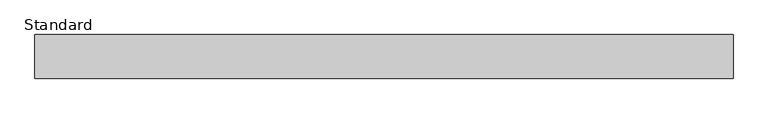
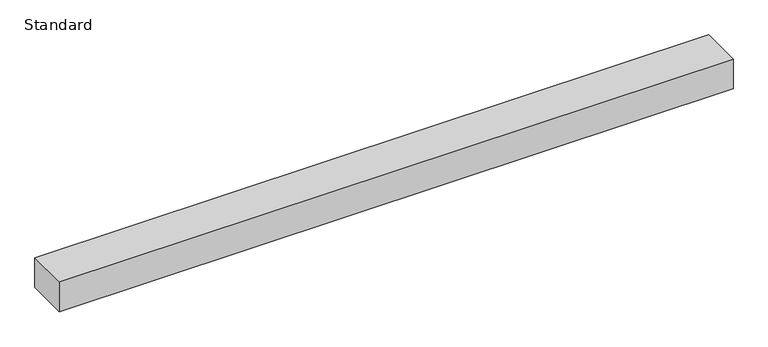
"""IFC4 building model written with IfcOpenShell, lengths in millimetres: proxy geometry, Raceway-ALA3800_Series-Wiremold-Steel : Standard."""

from ifc_helpers import new_model, si_unit, origin, origin_with_axes, place, context, project, spatial, polyline, outline, extrude, source, transform, mapped, element, save


def standard_bd2f1e62(model_context):
    return source(origin(), model_context, "Body", "SweptSolid", [
        extrude(outline(polyline([(1219.2, 38.1), (1219.2, -38.1), (0.0, -38.1), (0.0, 38.1), (1219.2, 38.1)])), origin_with_axes(), (0.0, 0.0, 1.0), 57.15),
    ])


if __name__ == "__main__":
    model = new_model("IFC4")
    model_context = context("Model", 3, world=origin())
    ifc_project = project(units=[si_unit("LENGTHUNIT", "METRE", prefix="MILLI")], contexts=[model_context])
    site = spatial("IfcSite", under=ifc_project)
    building = spatial("IfcBuilding", under=site)
    placement = place(None, origin())
    standard_shape = standard_bd2f1e62(model_context)
    element("IfcBuildingElementProxy", 1, Name="Raceway-ALA3800_Series-Wiremold-Steel : Standard", ObjectType="Raceway-ALA3800_Series-Wiremold-Steel : Standard", at=placement, inside=building, context=model_context, shape_type="MappedRepresentation", body=[
        mapped(standard_shape, transform((0.0, 0.0, 0.0), x_axis=(1.0, 0.0, 0.0), y_axis=(0.0, 1.0, 0.0), z_axis=(0.0, 0.0, 1.0))),
    ])
    save(model, "model.ifc")
